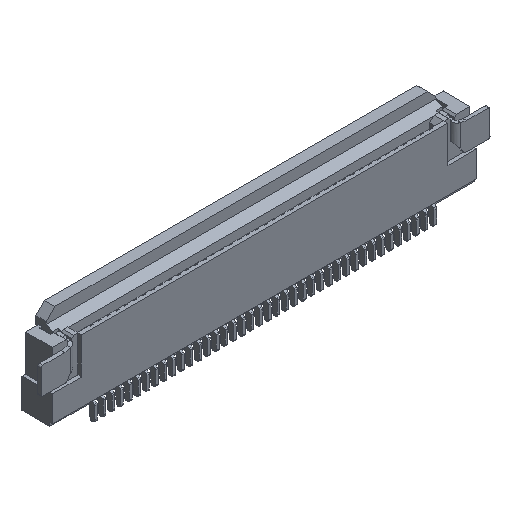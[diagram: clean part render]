
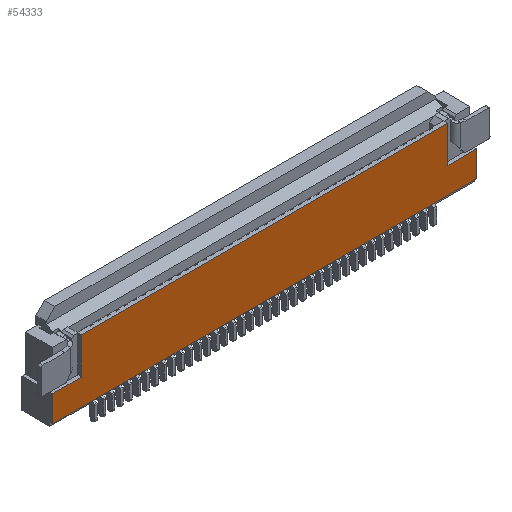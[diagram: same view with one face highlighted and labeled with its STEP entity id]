
A CAD part, isometric view. The second image highlights one B-rep face of the part: STEP entity #54333.
In plain terms, the highlighted planar face has unit normal (0, -1, 0).
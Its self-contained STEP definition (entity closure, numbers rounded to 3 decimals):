
#1612=DIRECTION('',(1.,0.,0.));
#1613=VECTOR('',#1612,1.665);
#1614=CARTESIAN_POINT('',(5.785,-0.875,-0.15));
#1615=LINE('',#1614,#1613);
#1620=DIRECTION('',(0.,0.,-1.));
#1621=VECTOR('',#1620,1.5);
#1622=CARTESIAN_POINT('',(7.45,-0.875,-0.15));
#1623=LINE('',#1622,#1621);
#1644=DIRECTION('',(-1.,0.,0.));
#1645=VECTOR('',#1644,21.07);
#1646=CARTESIAN_POINT('',(5.785,-0.875,1.95));
#1647=LINE('',#1646,#1645);
#13254=DIRECTION('',(1.,0.,0.));
#13255=VECTOR('',#13254,24.4);
#13256=CARTESIAN_POINT('',(-16.95,-0.875,-1.65));
#13257=LINE('',#13256,#13255);
#30874=DIRECTION('',(0.,0.,-1.));
#30875=VECTOR('',#30874,1.5);
#30876=CARTESIAN_POINT('',(-16.95,-0.875,-0.15));
#30877=LINE('',#30876,#30875);
#30902=DIRECTION('',(-1.,0.,0.));
#30903=VECTOR('',#30902,1.665);
#30904=CARTESIAN_POINT('',(-15.285,-0.875,-0.15));
#30905=LINE('',#30904,#30903);
#31967=DIRECTION('',(0.,0.,-1.));
#31968=VECTOR('',#31967,2.1);
#31969=CARTESIAN_POINT('',(-15.285,-0.875,1.95));
#31970=LINE('',#31969,#31968);
#38751=DIRECTION('',(0.,0.,-1.));
#38752=VECTOR('',#38751,2.1);
#38753=CARTESIAN_POINT('',(5.785,-0.875,1.95));
#38754=LINE('',#38753,#38752);
#39035=CARTESIAN_POINT('',(-16.95,-0.875,-0.15));
#39036=CARTESIAN_POINT('',(-16.95,-0.875,-1.65));
#39037=VERTEX_POINT('',#39035);
#39038=VERTEX_POINT('',#39036);
#39039=CARTESIAN_POINT('',(-15.285,-0.875,1.95));
#39040=CARTESIAN_POINT('',(-15.285,-0.875,-0.15));
#39041=VERTEX_POINT('',#39039);
#39042=VERTEX_POINT('',#39040);
#45373=CARTESIAN_POINT('',(7.45,-0.875,-0.15));
#45374=CARTESIAN_POINT('',(7.45,-0.875,-1.65));
#45375=VERTEX_POINT('',#45373);
#45376=VERTEX_POINT('',#45374);
#45377=CARTESIAN_POINT('',(5.785,-0.875,1.95));
#45378=CARTESIAN_POINT('',(5.785,-0.875,-0.15));
#45379=VERTEX_POINT('',#45377);
#45380=VERTEX_POINT('',#45378);
#54312=CARTESIAN_POINT('',(0.,-0.875,0.15));
#54313=DIRECTION('',(0.,1.,0.));
#54314=DIRECTION('',(0.,0.,-1.));
#54315=AXIS2_PLACEMENT_3D('',#54312,#54313,#54314);
#54316=PLANE('',#54315);
#54318=ORIENTED_EDGE('',*,*,#54317,.F.);
#54320=ORIENTED_EDGE('',*,*,#54319,.T.);
#54321=ORIENTED_EDGE('',*,*,#54285,.T.);
#54322=ORIENTED_EDGE('',*,*,#54300,.T.);
#54324=ORIENTED_EDGE('',*,*,#54323,.F.);
#54326=ORIENTED_EDGE('',*,*,#54325,.F.);
#54328=ORIENTED_EDGE('',*,*,#54327,.F.);
#54330=ORIENTED_EDGE('',*,*,#54329,.F.);
#54331=EDGE_LOOP('',(#54318,#54320,#54321,#54322,#54324,#54326,#54328,#54330));
#54332=FACE_OUTER_BOUND('',#54331,.F.);
#54285=EDGE_CURVE('',#45380,#45375,#1615,.T.);
#54300=EDGE_CURVE('',#45375,#45376,#1623,.T.);
#54317=EDGE_CURVE('',#45379,#39041,#1647,.T.);
#54319=EDGE_CURVE('',#45379,#45380,#38754,.T.);
#54323=EDGE_CURVE('',#39038,#45376,#13257,.T.);
#54325=EDGE_CURVE('',#39037,#39038,#30877,.T.);
#54327=EDGE_CURVE('',#39042,#39037,#30905,.T.);
#54329=EDGE_CURVE('',#39041,#39042,#31970,.T.);
#54333=ADVANCED_FACE('',(#54332),#54316,.F.);
